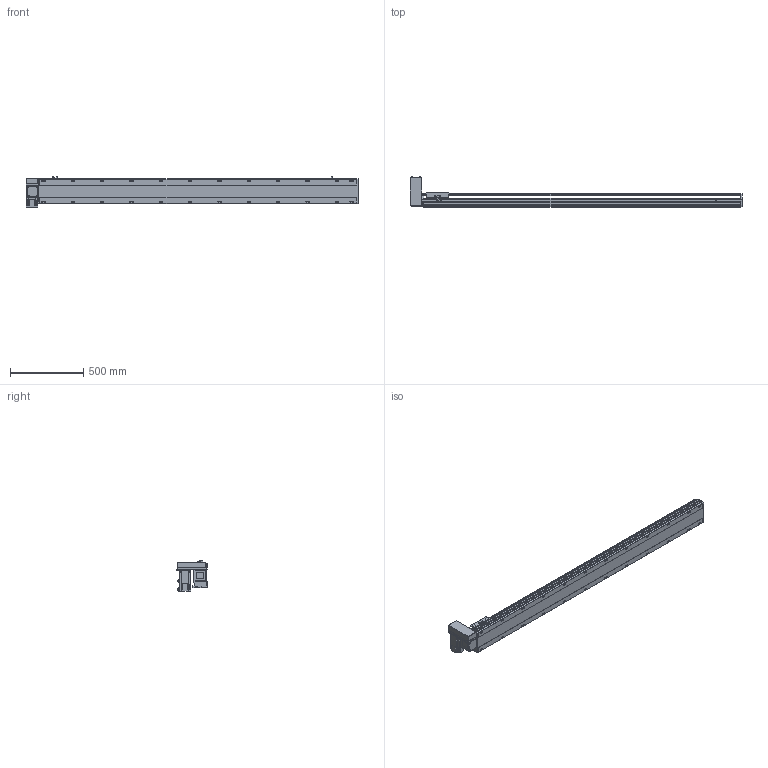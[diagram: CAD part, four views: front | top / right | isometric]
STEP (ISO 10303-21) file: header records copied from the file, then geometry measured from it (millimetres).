
FILE_DESCRIPTION( ( 'STEP AP214' ), '1' );
FILE_NAME( 'x:/temp/worker_5/temp/exporttempdir_3988_137_Ls4wZ/format_0/PBS170-P40-S1900-RU-T75-C1-N(0).stp', '2022-06-08T05:59:51', ( 'License CC BY-ND 4.0' ), ( 'CADENAS' ), ' ', 'PARTsolutions', ' ' );
FILE_SCHEMA( ( 'AUTOMOTIVE_DESIGN { 1 0 10303 214 1 1 1 1 }' ) );
Length unit declared in the file: millimetre
Products named in the file (7): PBS170-P40-S1900-RU-T75-C1-N(0); _PBS170-S1900()_body; _PBS170T-RU_motors; _T75-p1; _PBS170_sliser; _PBS170_plant; _PBS170_sensor
Assembly tree (8 placements, depth 2):
  PBS170-P40-S1900-RU-T75-C1-N(0)
    _PBS170-S1900()_body
    _PBS170T-RU_motors
    _T75-p1
    _PBS170_sliser
    _PBS170_plant
    _PBS170_sensor  x3
Bounding box: 2263 x 206 x 205.3 mm (x, y, z)
Volume: 17402113.4 mm3; surface area: 2214293.6 mm2
Topology: 8 solids, 8 shells, 1146 faces, 3035 edges, 1978 vertices
Faces by surface type: plane 711, cylinder 371, cone 54, sphere 8, torus 2
Full cylindrical faces by diameter (mm): 3.242 x4, 4 x2, 4.4 x4, 4.5 x6, 4.917 x4, 6 x9, 6.647 x32, 7 x2, 7.5 x4, 8 x8, 8.5 x24, 10 x4, 10.5 x24, 11 x2, 30 x2, 40 x1, 70 x1
Entity records: 42308 total; most frequent: CARTESIAN_POINT 6893, DIRECTION 5580, ORIENTED_EDGE 5268, EDGE_CURVE 2634, AXIS2_PLACEMENT_3D 1957, VERTEX_POINT 1826, LINE 1666, VECTOR 1666
